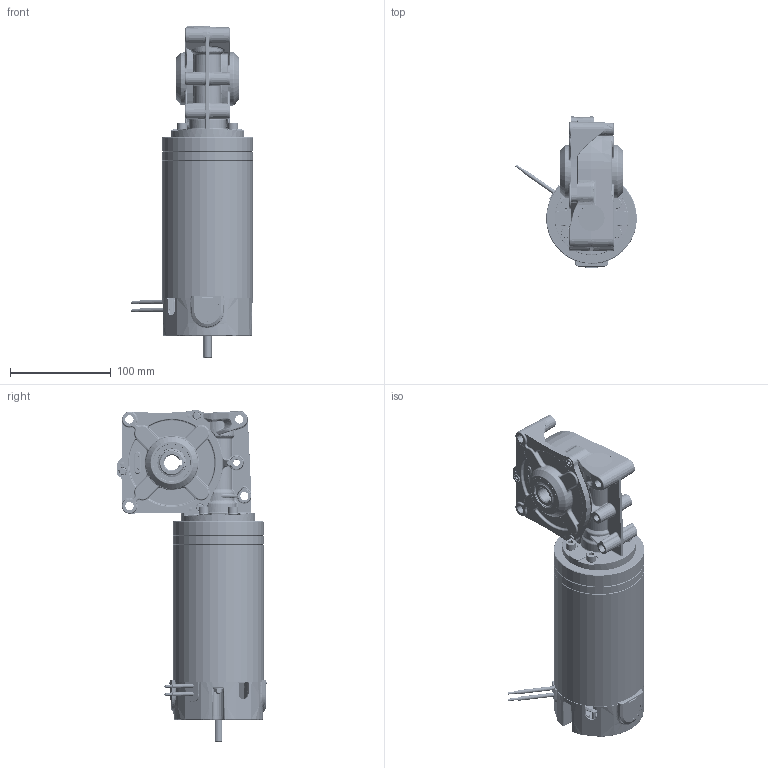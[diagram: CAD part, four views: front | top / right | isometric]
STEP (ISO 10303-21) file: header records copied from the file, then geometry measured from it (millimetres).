
FILE_DESCRIPTION (( 'STEP AP214' ), '1' );
FILE_NAME ('BRx90-75-GB12.STEP', '2023-12-19T15:18:34', ( '' ), ( '' ), 'SwSTEP 2.0', 'SolidWorks 2023', '' );
FILE_SCHEMA (( 'AUTOMOTIVE_DESIGN' ));
Length unit declared in the file: millimetre
Products named in the file (1): BRx90-75-GB12
Bounding box: 120.71 x 149.57 x 329.3 mm (x, y, z)
Volume: 743233.2 mm3; surface area: 336172.8 mm2
Topology: 50 solids, 50 shells, 4163 faces, 9841 edges, 5726 vertices
Faces by surface type: cylinder 1113, bspline 925, plane 903, torus 595, cone 493, sphere 134
Entity records: 191439 total; most frequent: CARTESIAN_POINT 56658, ORIENTED_EDGE 19248, DIRECTION 17871, EDGE_CURVE 9624, AXIS2_PLACEMENT_3D 7408, VERTEX_POINT 5726, EDGE_LOOP 4434, UNCERTAINTY_MEASURE_WITH_UNIT 4214
